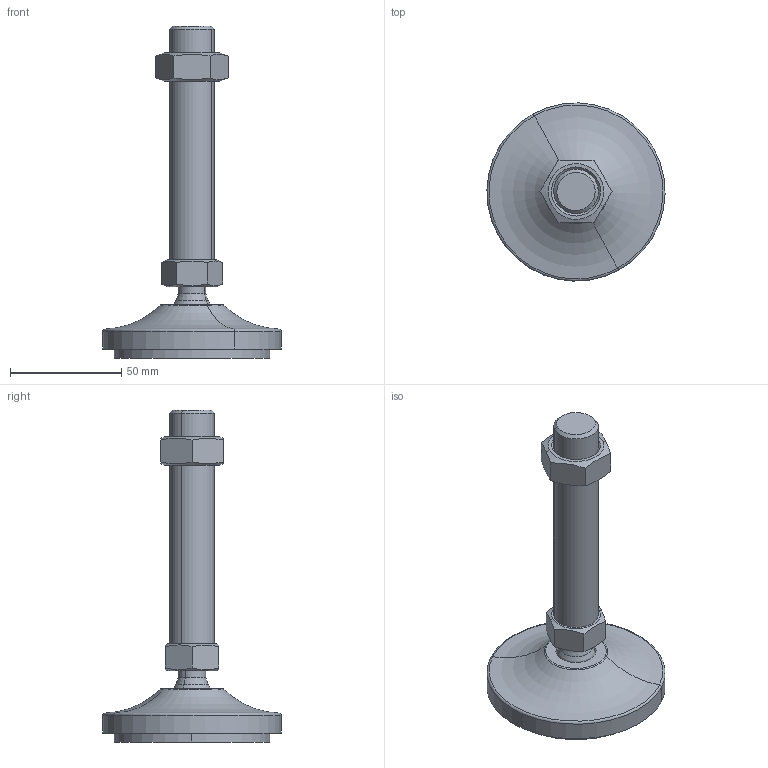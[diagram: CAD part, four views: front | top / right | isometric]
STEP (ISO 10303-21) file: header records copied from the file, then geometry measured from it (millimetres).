
FILE_DESCRIPTION(('CATIA V5 STEP Exchange'),'2;1');
FILE_NAME('C:\Users\ALI OZGUN\Desktop\alhan\saplama2\560802615AV.stp','2017-09-21T10:30:39+00:00',('none'),('none'),'CATIA Version 5 Release 21 GA (IN-10)','CATIA V5 STEP AP203','none');
FILE_SCHEMA(('CONFIG_CONTROL_DESIGN'));
Length unit declared in the file: millimetre
Products named in the file (1): 560802615AV
Bounding box: 79.98 x 79.98 x 149 mm (x, y, z)
Volume: 122498.8 mm3; surface area: 35631.2 mm2
Topology: 4 solids, 4 shells, 64 faces, 142 edges, 87 vertices
Faces by surface type: plane 22, cylinder 16, cone 16, torus 6, revolution 2, sphere 2
Entity records: 1952 total; most frequent: CARTESIAN_POINT 644, ORIENTED_EDGE 280, DIRECTION 198, EDGE_CURVE 140, AXIS2_PLACEMENT_3D 107, VERTEX_POINT 87, EDGE_LOOP 71, ADVANCED_FACE 64
